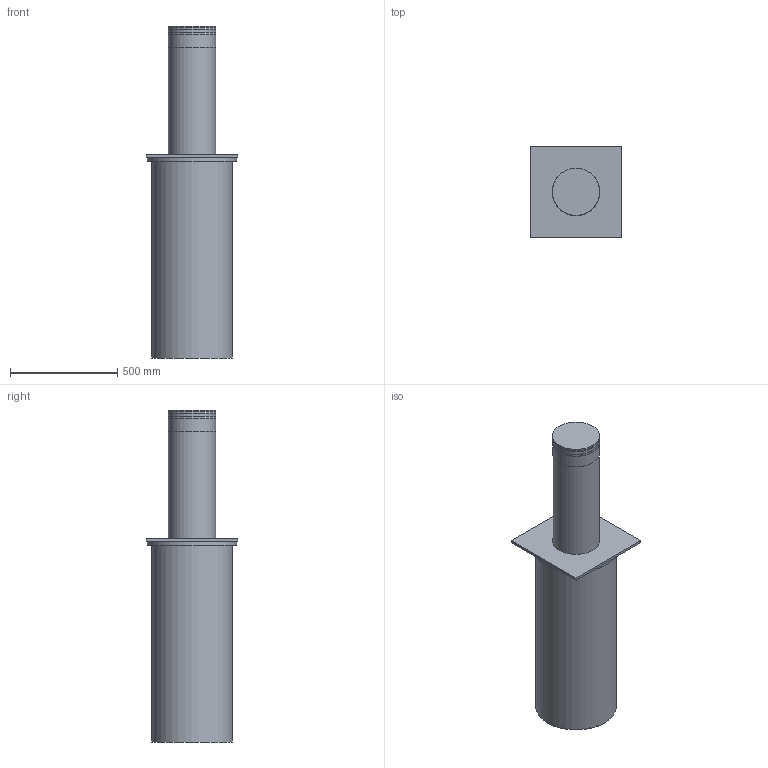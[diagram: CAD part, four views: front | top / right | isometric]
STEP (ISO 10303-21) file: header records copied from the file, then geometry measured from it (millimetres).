
FILE_DESCRIPTION(('FreeCAD Model'),'2;1');
FILE_NAME('Open CASCADE Shape Model','2026-10-04T03:58:26',('FreeCAD'),( 'FreeCAD'),'Open CASCADE STEP processor 7.8','FreeCAD','Unknown');
FILE_SCHEMA(('AUTOMOTIVE_DESIGN { 1 0 10303 214 1 1 1 1 }'));
Length unit declared in the file: millimetre
Products named in the file (1): Open CASCADE STEP translator 7.8 3
Bounding box: 427 x 427 x 1550 mm (x, y, z)
Volume: 12094146.8 mm3; surface area: 3960851.5 mm2
Topology: 7 solids, 7 shells, 40 faces, 63 edges, 42 vertices
Faces by surface type: plane 23, cylinder 17
Full cylindrical faces by diameter (mm): 20 x1, 204 x1, 218 x2, 219.2 x2, 220 x6, 222 x2, 367 x1, 375 x1, 416 x1
Entity records: 943 total; most frequent: DIRECTION 179, CARTESIAN_POINT 146, ORIENTED_EDGE 126, AXIS2_PLACEMENT_3D 75, EDGE_CURVE 63, FACE_BOUND 57, EDGE_LOOP 57, VERTEX_POINT 42
